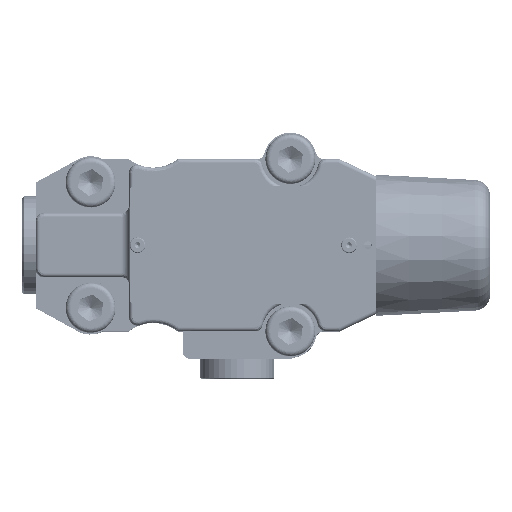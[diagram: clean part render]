
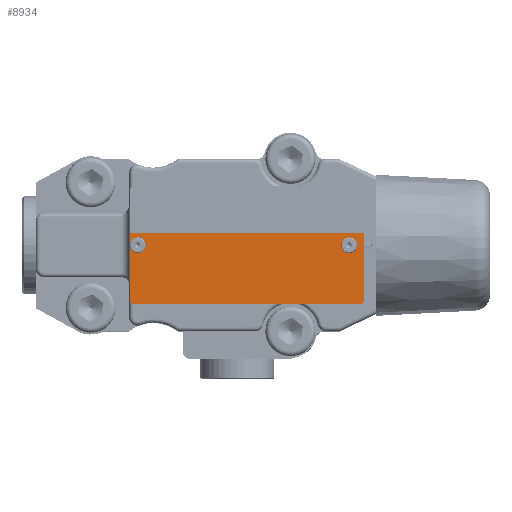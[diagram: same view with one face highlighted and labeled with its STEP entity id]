
A CAD part, top view. The second image highlights one B-rep face of the part: STEP entity #8934.
In plain terms, the highlighted planar face has unit normal (0, 0, 1).
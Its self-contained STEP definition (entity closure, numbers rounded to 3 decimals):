
#277=PLANE('',#11561);
#861=LINE('',#45733,#1251);
#866=LINE('',#45747,#1256);
#870=LINE('',#45759,#1260);
#874=LINE('',#45771,#1264);
#1251=VECTOR('',#13443,1.);
#1256=VECTOR('',#13456,1.);
#1260=VECTOR('',#13468,1.);
#1264=VECTOR('',#13480,1.);
#2401=EDGE_LOOP('',(#4840,#4841,#4842,#4843,#4844,#4845,#4846,#4847));
#2402=EDGE_LOOP('',(#4848));
#2403=EDGE_LOOP('',(#4849));
#3252=CIRCLE('',#11541,1.);
#3254=CIRCLE('',#11545,1.);
#3256=CIRCLE('',#11549,1.);
#3257=CIRCLE('',#11552,0.95);
#3260=CIRCLE('',#11556,1.);
#3261=CIRCLE('',#11558,0.95);
#4840=ORIENTED_EDGE('',*,*,#6760,.T.);
#4841=ORIENTED_EDGE('',*,*,#6764,.T.);
#4842=ORIENTED_EDGE('',*,*,#6767,.T.);
#4843=ORIENTED_EDGE('',*,*,#6770,.T.);
#4844=ORIENTED_EDGE('',*,*,#6773,.T.);
#4845=ORIENTED_EDGE('',*,*,#6776,.T.);
#4846=ORIENTED_EDGE('',*,*,#6779,.T.);
#4847=ORIENTED_EDGE('',*,*,#6783,.T.);
#4848=ORIENTED_EDGE('',*,*,#6780,.T.);
#4849=ORIENTED_EDGE('',*,*,#6784,.T.);
#6760=EDGE_CURVE('',#10513,#10512,#861,.T.);
#6764=EDGE_CURVE('',#10512,#10515,#3252,.T.);
#6767=EDGE_CURVE('',#10515,#10517,#866,.T.);
#6770=EDGE_CURVE('',#10517,#10519,#3254,.T.);
#6773=EDGE_CURVE('',#10519,#10521,#870,.T.);
#6776=EDGE_CURVE('',#10521,#10523,#3256,.T.);
#6779=EDGE_CURVE('',#10523,#10525,#874,.T.);
#6780=EDGE_CURVE('',#10526,#10526,#3257,.T.);
#6783=EDGE_CURVE('',#10525,#10513,#3260,.T.);
#6784=EDGE_CURVE('',#10528,#10528,#3261,.T.);
#8934=ADVANCED_FACE('',(#9605,#9606,#9607),#277,.T.);
#9605=FACE_BOUND('',#2401,.T.);
#9606=FACE_BOUND('',#2402,.T.);
#9607=FACE_BOUND('',#2403,.T.);
#10512=VERTEX_POINT('',#45732);
#10513=VERTEX_POINT('',#45734);
#10515=VERTEX_POINT('',#45740);
#10517=VERTEX_POINT('',#45746);
#10519=VERTEX_POINT('',#45752);
#10521=VERTEX_POINT('',#45758);
#10523=VERTEX_POINT('',#45764);
#10525=VERTEX_POINT('',#45770);
#10526=VERTEX_POINT('',#45774);
#10528=VERTEX_POINT('',#45782);
#11541=AXIS2_PLACEMENT_3D('',#45741,#13450,#13451);
#11545=AXIS2_PLACEMENT_3D('',#45753,#13462,#13463);
#11549=AXIS2_PLACEMENT_3D('',#45765,#13474,#13475);
#11552=AXIS2_PLACEMENT_3D('',#45773,#13483,#13484);
#11556=AXIS2_PLACEMENT_3D('',#45779,#13491,#13492);
#11558=AXIS2_PLACEMENT_3D('',#45781,#13495,#13496);
#11561=AXIS2_PLACEMENT_3D('',#45786,#13501,#13502);
#13443=DIRECTION('',(-1.,0.,0.));
#13450=DIRECTION('',(0.,0.,1.));
#13451=DIRECTION('',(-1.,0.,0.));
#13456=DIRECTION('',(0.,-1.,0.));
#13462=DIRECTION('',(0.,0.,1.));
#13463=DIRECTION('',(-1.,0.,0.));
#13468=DIRECTION('',(1.,0.,0.));
#13474=DIRECTION('',(0.,0.,1.));
#13475=DIRECTION('',(-1.,0.,0.));
#13480=DIRECTION('',(0.,1.,0.));
#13483=DIRECTION('',(0.,0.,-1.));
#13484=DIRECTION('',(1.,0.,0.));
#13491=DIRECTION('',(0.,0.,1.));
#13492=DIRECTION('',(-1.,0.,0.));
#13495=DIRECTION('',(0.,0.,-1.));
#13496=DIRECTION('',(1.,0.,0.));
#13501=DIRECTION('',(0.,0.,1.));
#13502=DIRECTION('',(-1.,0.,0.));
#45732=CARTESIAN_POINT('',(-721.26,-41.932,131.));
#45733=CARTESIAN_POINT('',(-697.168,-41.932,131.));
#45734=CARTESIAN_POINT('',(-663.36,-41.932,131.));
#45740=CARTESIAN_POINT('',(-722.26,-42.932,131.));
#45741=CARTESIAN_POINT('',(-721.26,-42.932,131.));
#45746=CARTESIAN_POINT('',(-722.26,-70.932,131.));
#45747=CARTESIAN_POINT('',(-722.26,-70.932,131.));
#45752=CARTESIAN_POINT('',(-721.26,-71.932,131.));
#45753=CARTESIAN_POINT('',(-721.26,-70.932,131.));
#45758=CARTESIAN_POINT('',(-663.36,-71.932,131.));
#45759=CARTESIAN_POINT('',(-663.36,-71.932,131.));
#45764=CARTESIAN_POINT('',(-662.36,-70.932,131.));
#45765=CARTESIAN_POINT('',(-663.36,-70.932,131.));
#45770=CARTESIAN_POINT('',(-662.36,-42.932,131.));
#45771=CARTESIAN_POINT('',(-662.36,-42.932,131.));
#45773=CARTESIAN_POINT('',(-720.26,-56.932,131.));
#45774=CARTESIAN_POINT('',(-719.31,-56.932,131.));
#45779=CARTESIAN_POINT('',(-663.36,-42.932,131.));
#45781=CARTESIAN_POINT('',(-666.26,-56.932,131.));
#45782=CARTESIAN_POINT('',(-665.31,-56.932,131.));
#45786=CARTESIAN_POINT('',(-663.36,-42.932,131.));
